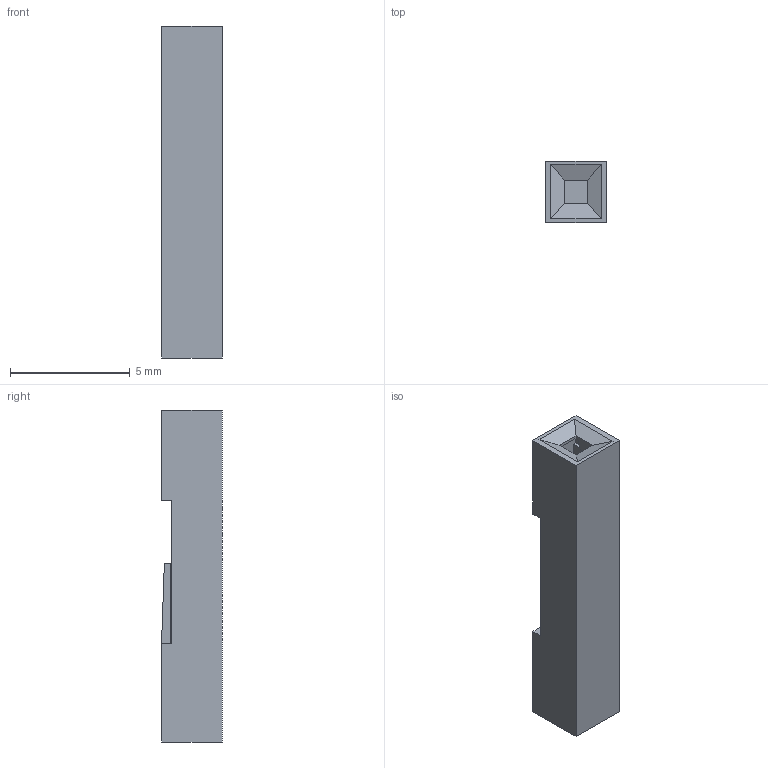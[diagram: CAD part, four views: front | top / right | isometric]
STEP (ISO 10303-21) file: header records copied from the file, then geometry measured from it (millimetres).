
FILE_DESCRIPTION((''),'2;1');
FILE_NAME('036_SW0001','2008-02-25T',('LPotteiger'),('FCI USA, Inc. - CDC Division'),'PRO/ENGINEER BY PARAMETRIC TECHNOLOGY CORPORATION, 2005380','PRO/ENGINEER BY PARAMETRIC TECHNOLOGY CORPORATION, 2005380','');
FILE_SCHEMA(('CONFIG_CONTROL_DESIGN'));
Length unit declared in the file: millimetre
Products named in the file (1): 036_SW0001
Bounding box: 2.54 x 2.54 x 13.84 mm (x, y, z)
Volume: 75.8 mm3; surface area: 188.2 mm2
Topology: 1 solids, 1 shells, 50 faces, 139 edges, 90 vertices
Faces by surface type: plane 46, cylinder 4
Entity records: 1609 total; most frequent: CARTESIAN_POINT 279, ORIENTED_EDGE 278, DIRECTION 247, EDGE_CURVE 139, VECTOR 131, LINE 131, VERTEX_POINT 90, AXIS2_PLACEMENT_3D 58
